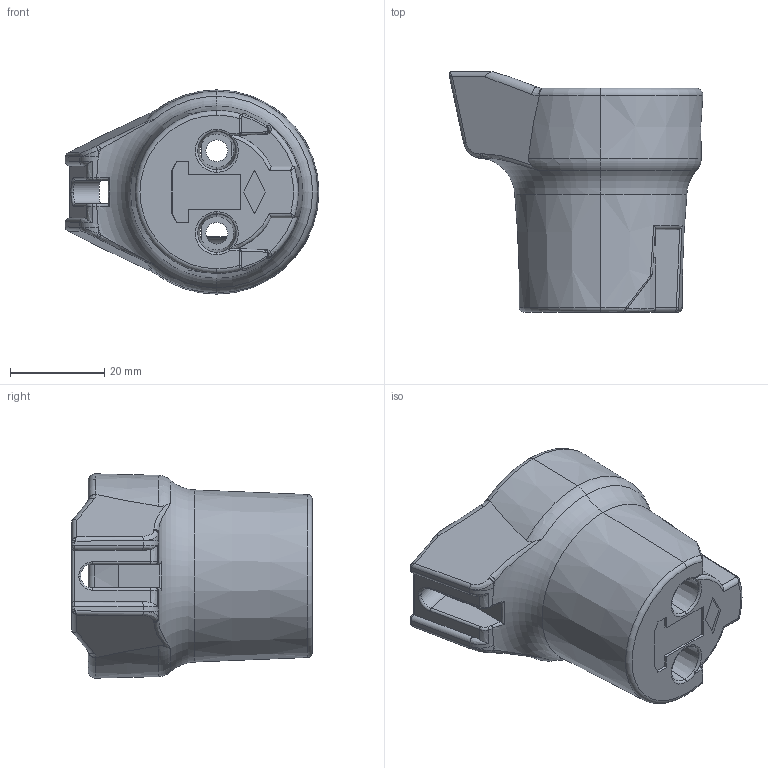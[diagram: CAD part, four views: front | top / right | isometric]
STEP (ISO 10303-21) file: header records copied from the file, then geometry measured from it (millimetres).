
FILE_DESCRIPTION (( 'STEP AP203' ), '1' );
FILE_NAME ('3D - HSW8236 Außenkontur.STEP', '2019-08-06T08:28:29', ( '' ), ( '' ), 'SwSTEP 2.0', 'SolidWorks 2013', '' );
FILE_SCHEMA (( 'CONFIG_CONTROL_DESIGN' ));
Length unit declared in the file: millimetre
Products named in the file (1): 3D - HSW8236 Außenkontur
Bounding box: 53.85 x 51 x 43.33 mm (x, y, z)
Surface area: 12706.9 mm2 (no closed solid volume)
Topology: 0 solids, 10 shells, 202 faces, 585 edges, 375 vertices
Faces by surface type: plane 62, bspline 48, cylinder 43, torus 33, cone 12, sphere 4
Entity records: 11127 total; most frequent: CARTESIAN_POINT 6305, ORIENTED_EDGE 1048, DIRECTION 888, EDGE_CURVE 577, VERTEX_POINT 375, AXIS2_PLACEMENT_3D 349, EDGE_LOOP 208, FACE_OUTER_BOUND 202
